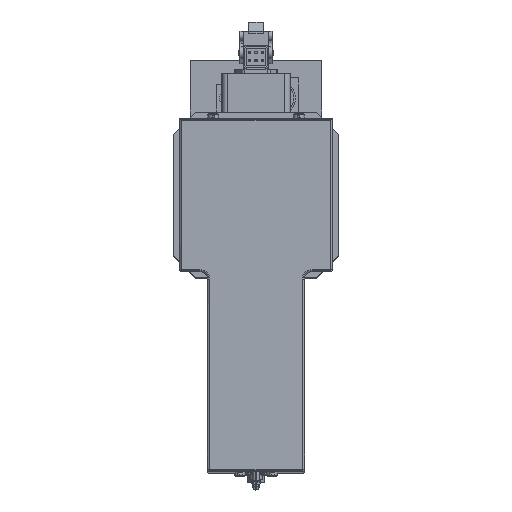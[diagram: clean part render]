
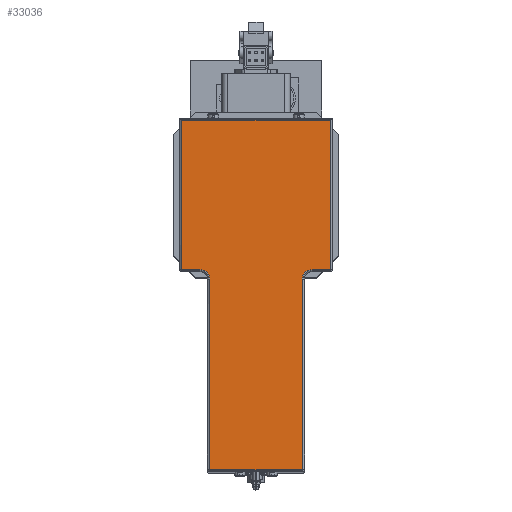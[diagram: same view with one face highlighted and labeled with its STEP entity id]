
A CAD part, top view. The second image highlights one B-rep face of the part: STEP entity #33036.
In plain terms, the highlighted planar face has unit normal (0, 0, 1).
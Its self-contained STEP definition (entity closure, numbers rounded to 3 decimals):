
#254 = EDGE_LOOP ( 'NONE', ( #24585, #33744, #35590, #43078, #3594, #15858, #47218, #7541, #22142, #37941 ) ) ;
#2038 = EDGE_CURVE ( 'NONE', #7214, #16603, #11292, .T. ) ;
#2656 = LINE ( 'NONE', #46933, #21663 ) ;
#2805 = VECTOR ( 'NONE', #27679, 1000. ) ;
#3594 = ORIENTED_EDGE ( 'NONE', *, *, #43089, .T. ) ;
#6822 = PLANE ( 'NONE',  #31887 ) ;
#7214 = VERTEX_POINT ( 'NONE', #23688 ) ;
#7487 = CARTESIAN_POINT ( 'NONE',  ( -34.986, 25.729, 1216. ) ) ;
#7541 = ORIENTED_EDGE ( 'NONE', *, *, #17833, .T. ) ;
#10634 = CARTESIAN_POINT ( 'NONE',  ( -34.986, 16.729, 1216. ) ) ;
#10745 = EDGE_CURVE ( 'NONE', #38613, #7214, #39322, .T. ) ;
#11292 = LINE ( 'NONE', #19460, #47402 ) ;
#11921 = CARTESIAN_POINT ( 'NONE',  ( -51.986, 165.729, 1216. ) ) ;
#12874 = VERTEX_POINT ( 'NONE', #14632 ) ;
#12915 = LINE ( 'NONE', #46884, #2805 ) ;
#14603 = DIRECTION ( 'NONE',  ( 0., 0., 1. ) ) ;
#14632 = CARTESIAN_POINT ( 'NONE',  ( -51.986, 25.729, 1216. ) ) ;
#15858 = ORIENTED_EDGE ( 'NONE', *, *, #46328, .T. ) ;
#16033 = DIRECTION ( 'NONE',  ( 1., 0., 0. ) ) ;
#16603 = VERTEX_POINT ( 'NONE', #11921 ) ;
#16749 = VECTOR ( 'NONE', #16033, 1000. ) ;
#17510 = DIRECTION ( 'NONE',  ( 0., -1., 0. ) ) ;
#17545 = VECTOR ( 'NONE', #17510, 1000. ) ;
#17833 = EDGE_CURVE ( 'NONE', #34458, #20254, #48517, .T. ) ;
#18576 = DIRECTION ( 'NONE',  ( 1., 0., 0. ) ) ;
#19242 = CARTESIAN_POINT ( 'NONE',  ( 87.014, 25.729, 1216. ) ) ;
#19460 = CARTESIAN_POINT ( 'NONE',  ( -53.986, 165.729, 1216. ) ) ;
#19872 = VERTEX_POINT ( 'NONE', #43068 ) ;
#20254 = VERTEX_POINT ( 'NONE', #41244 ) ;
#21086 = AXIS2_PLACEMENT_3D ( 'NONE', #46010, #42235, #27158 ) ;
#21663 = VECTOR ( 'NONE', #36339, 1000. ) ;
#22142 = ORIENTED_EDGE ( 'NONE', *, *, #43763, .T. ) ;
#22376 = FACE_OUTER_BOUND ( 'NONE', #254, .T. ) ;
#22583 = LINE ( 'NONE', #26653, #26124 ) ;
#23627 = CARTESIAN_POINT ( 'NONE',  ( -34.986, 25.729, 1216. ) ) ;
#23688 = CARTESIAN_POINT ( 'NONE',  ( 87.014, 165.729, 1216. ) ) ;
#23896 = VERTEX_POINT ( 'NONE', #7487 ) ;
#24316 = CARTESIAN_POINT ( 'NONE',  ( -34.986, 16.729, 1216. ) ) ;
#24585 = ORIENTED_EDGE ( 'NONE', *, *, #29432, .T. ) ;
#25185 = DIRECTION ( 'NONE',  ( 0., 1., 0. ) ) ;
#25513 = CARTESIAN_POINT ( 'NONE',  ( 87.014, 167.729, 1216. ) ) ;
#25960 = CARTESIAN_POINT ( 'NONE',  ( 70.014, 25.729, 1216. ) ) ;
#26124 = VECTOR ( 'NONE', #33878, 1000. ) ;
#26496 = VERTEX_POINT ( 'NONE', #36216 ) ;
#26653 = CARTESIAN_POINT ( 'NONE',  ( 61.014, 16.729, 1216. ) ) ;
#27158 = DIRECTION ( 'NONE',  ( 1., 0., 0. ) ) ;
#27679 = DIRECTION ( 'NONE',  ( 0., -1., 0. ) ) ;
#27900 = DIRECTION ( 'NONE',  ( 1., 0., 0. ) ) ;
#28088 = EDGE_CURVE ( 'NONE', #26496, #34458, #12915, .T. ) ;
#28143 = LINE ( 'NONE', #40177, #17545 ) ;
#28595 = CARTESIAN_POINT ( 'NONE',  ( -25.986, -161.771, 1216. ) ) ;
#29432 = EDGE_CURVE ( 'NONE', #40198, #38613, #2656, .T. ) ;
#29452 = EDGE_CURVE ( 'NONE', #16603, #12874, #28143, .T. ) ;
#30748 = EDGE_CURVE ( 'NONE', #19872, #40198, #31680, .T. ) ;
#31544 = DIRECTION ( 'NONE',  ( 0., 0., -1. ) ) ;
#31594 = AXIS2_PLACEMENT_3D ( 'NONE', #24316, #31544, #39046 ) ;
#31680 = CIRCLE ( 'NONE', #21086, 9. ) ;
#31887 = AXIS2_PLACEMENT_3D ( 'NONE', #10634, #14603, #18576 ) ;
#33036 = ADVANCED_FACE ( 'NONE', ( #22376 ), #6822, .T. ) ;
#33744 = ORIENTED_EDGE ( 'NONE', *, *, #10745, .T. ) ;
#33878 = DIRECTION ( 'NONE',  ( 0., 1., 0. ) ) ;
#34458 = VERTEX_POINT ( 'NONE', #28595 ) ;
#34621 = DIRECTION ( 'NONE',  ( -1., 0., 0. ) ) ;
#35590 = ORIENTED_EDGE ( 'NONE', *, *, #2038, .T. ) ;
#36216 = CARTESIAN_POINT ( 'NONE',  ( -25.986, 16.729, 1216. ) ) ;
#36339 = DIRECTION ( 'NONE',  ( 1., 0., 0. ) ) ;
#37941 = ORIENTED_EDGE ( 'NONE', *, *, #30748, .T. ) ;
#38115 = VECTOR ( 'NONE', #25185, 1000. ) ;
#38613 = VERTEX_POINT ( 'NONE', #19242 ) ;
#39046 = DIRECTION ( 'NONE',  ( 1., 0., 0. ) ) ;
#39322 = LINE ( 'NONE', #25513, #38115 ) ;
#40177 = CARTESIAN_POINT ( 'NONE',  ( -51.986, 23.729, 1216. ) ) ;
#40198 = VERTEX_POINT ( 'NONE', #25960 ) ;
#41244 = CARTESIAN_POINT ( 'NONE',  ( 61.014, -161.771, 1216. ) ) ;
#42235 = DIRECTION ( 'NONE',  ( 0., 0., -1. ) ) ;
#43068 = CARTESIAN_POINT ( 'NONE',  ( 61.014, 16.729, 1216. ) ) ;
#43078 = ORIENTED_EDGE ( 'NONE', *, *, #29452, .T. ) ;
#43089 = EDGE_CURVE ( 'NONE', #12874, #23896, #48083, .T. ) ;
#43106 = CARTESIAN_POINT ( 'NONE',  ( 63.014, -161.771, 1216. ) ) ;
#43668 = CIRCLE ( 'NONE', #31594, 9. ) ;
#43763 = EDGE_CURVE ( 'NONE', #20254, #19872, #22583, .T. ) ;
#44954 = VECTOR ( 'NONE', #27900, 1000. ) ;
#46010 = CARTESIAN_POINT ( 'NONE',  ( 70.014, 16.729, 1216. ) ) ;
#46328 = EDGE_CURVE ( 'NONE', #23896, #26496, #43668, .T. ) ;
#46884 = CARTESIAN_POINT ( 'NONE',  ( -25.986, -163.771, 1216. ) ) ;
#46933 = CARTESIAN_POINT ( 'NONE',  ( 89.014, 25.729, 1216. ) ) ;
#47218 = ORIENTED_EDGE ( 'NONE', *, *, #28088, .T. ) ;
#47402 = VECTOR ( 'NONE', #34621, 1000. ) ;
#48083 = LINE ( 'NONE', #23627, #16749 ) ;
#48517 = LINE ( 'NONE', #43106, #44954 ) ;
